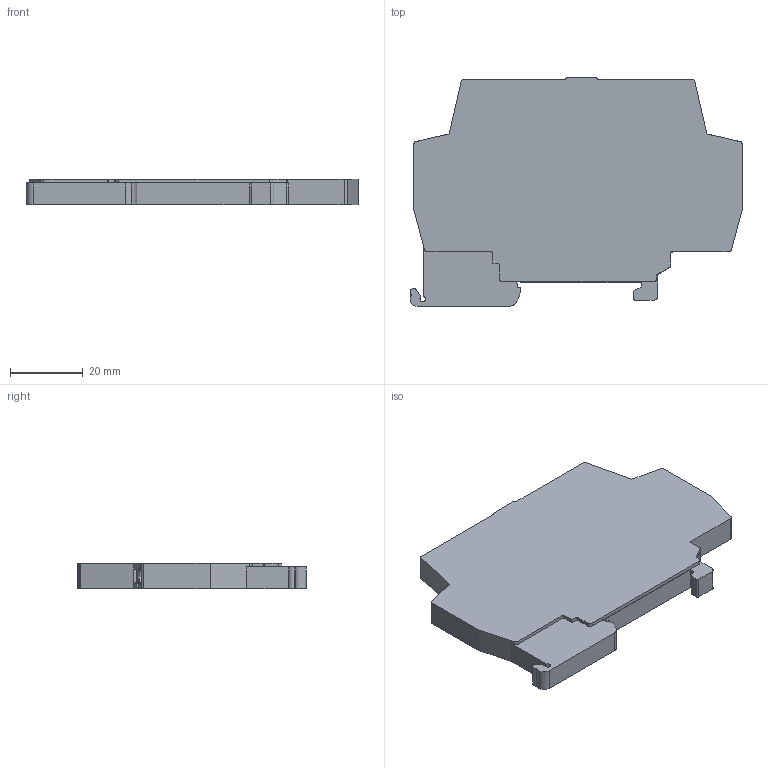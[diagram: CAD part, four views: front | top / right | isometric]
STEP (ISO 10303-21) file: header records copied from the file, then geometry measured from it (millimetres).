
FILE_DESCRIPTION(/* description */ (''),/* implementation_level */ '2;1');
FILE_NAME(/* name */ 'D:\_Vault\Workspace\Projektordner\3-Sensoren\04-NSC\14-PSEN_mag_M12_Edelstahl\03-Kundendaten/2027535_A_PSENix0 F1.stp',/* time_stamp */ '2019-02-12T16:22:36+01:00',/* author */ ('drod'),/* organization */ (''),/* preprocessor_version */ 'ST-DEVELOPER v17.2',/* originating_system */ 'Autodesk Inventor 2019',/* authorisation */ '');
FILE_SCHEMA (('AUTOMOTIVE_DESIGN { 1 0 10303 214 3 1 1 }'));
Length unit declared in the file: millimetre
Products named in the file (1): 2027535
Bounding box: 91.5 x 63 x 7.01 mm (x, y, z)
Volume: 30601.7 mm3; surface area: 12975.9 mm2
Topology: 1 solids, 1 shells, 336 faces, 917 edges, 609 vertices
Faces by surface type: plane 254, cylinder 77, cone 5
Full cylindrical faces by diameter (mm): 0.8 x2, 1 x2, 2.55 x3, 4.2 x5
Entity records: 10633 total; most frequent: CARTESIAN_POINT 1863, ORIENTED_EDGE 1834, DIRECTION 1768, EDGE_CURVE 917, LINE 740, VECTOR 740, VERTEX_POINT 609, AXIS2_PLACEMENT_3D 514
